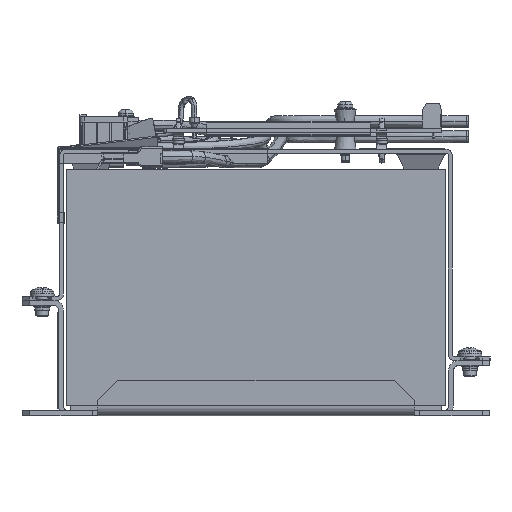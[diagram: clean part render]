
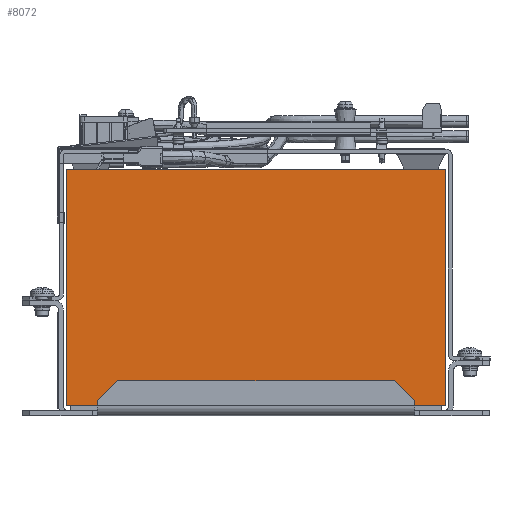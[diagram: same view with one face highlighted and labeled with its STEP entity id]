
A CAD part, left-side view. The second image highlights one B-rep face of the part: STEP entity #8072.
In plain terms, the highlighted planar face has unit normal (-1, 0, 0) as drawn and (0, -1, 0) by its records, which use the part's own axes.
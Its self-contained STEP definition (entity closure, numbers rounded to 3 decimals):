
#7288=DIRECTION('',(1.,0.,0.));
#7289=VECTOR('',#7288,151.);
#7290=CARTESIAN_POINT('',(-75.5,-49.,94.));
#7291=LINE('',#7290,#7289);
#7624=DIRECTION('',(0.,0.,-1.));
#7625=VECTOR('',#7624,94.);
#7626=CARTESIAN_POINT('',(75.5,-49.,94.));
#7627=LINE('',#7626,#7625);
#7659=DIRECTION('',(1.,0.,0.));
#7660=VECTOR('',#7659,151.);
#7661=CARTESIAN_POINT('',(-75.5,-49.,0.));
#7662=LINE('',#7661,#7660);
#7666=DIRECTION('',(0.,0.,-1.));
#7667=VECTOR('',#7666,94.);
#7668=CARTESIAN_POINT('',(-75.5,-49.,94.));
#7669=LINE('',#7668,#7667);
#7869=CARTESIAN_POINT('',(75.5,-49.,94.));
#7871=VERTEX_POINT('',#7869);
#7873=CARTESIAN_POINT('',(75.5,-49.,0.));
#7874=VERTEX_POINT('',#7873);
#7877=CARTESIAN_POINT('',(-75.5,-49.,94.));
#7878=VERTEX_POINT('',#7877);
#7879=CARTESIAN_POINT('',(-75.5,-49.,0.));
#7880=VERTEX_POINT('',#7879);
#8060=CARTESIAN_POINT('',(75.5,-49.,0.));
#8061=DIRECTION('',(0.,-1.,0.));
#8062=DIRECTION('',(0.,0.,-1.));
#8063=AXIS2_PLACEMENT_3D('',#8060,#8061,#8062);
#8064=PLANE('',#8063);
#8065=ORIENTED_EDGE('',*,*,#7952,.T.);
#8066=ORIENTED_EDGE('',*,*,#8027,.T.);
#8068=ORIENTED_EDGE('',*,*,#8067,.F.);
#8069=ORIENTED_EDGE('',*,*,#8052,.F.);
#8070=EDGE_LOOP('',(#8065,#8066,#8068,#8069));
#8071=FACE_OUTER_BOUND('',#8070,.F.);
#8072=ADVANCED_FACE('',(#8071),#8064,.T.);
#7952=EDGE_CURVE('',#7878,#7871,#7291,.T.);
#8027=EDGE_CURVE('',#7871,#7874,#7627,.T.);
#8052=EDGE_CURVE('',#7878,#7880,#7669,.T.);
#8067=EDGE_CURVE('',#7880,#7874,#7662,.T.);
